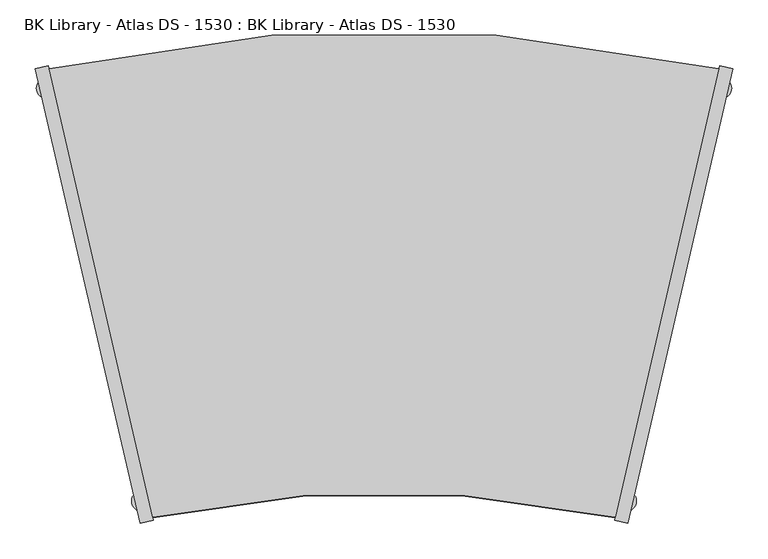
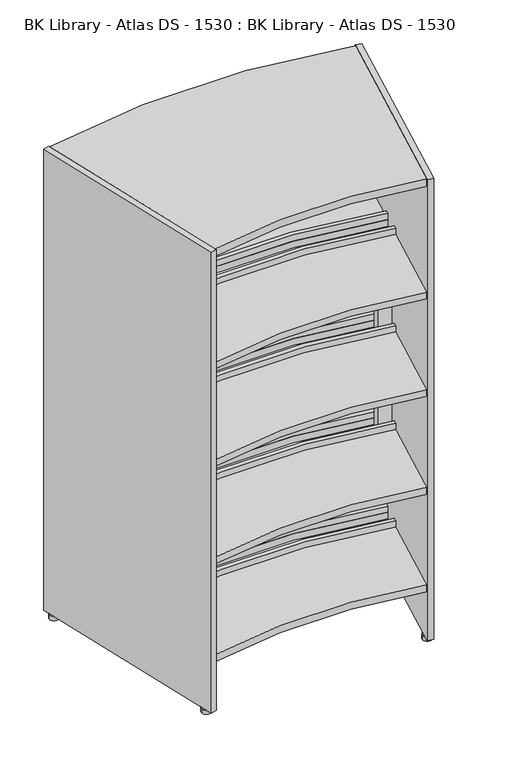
"""IFC4 building model written with IfcOpenShell, lengths in millimetres: furniture geometry, BK Library - Atlas DS - 1530 : BK Library - Atlas DS - 1530."""

from ifc_helpers import new_model, si_unit, point, frame, frame_2d, origin, origin_with_axes, place, context, project, spatial, polyline, circle_curve, trimmed, segment, composite_curve, outline, extrude, source, transform, mapped, element, save
from ifc_brep_helpers import plane_surface, cylinder_surface, revolved_surface, advanced_brep


def bk_library_atlas_ds_1530_bk_library_atlas_ds_1530_61157fd0(model_context):
    return source(origin(), model_context, "Body", "SolidModel", [
        extrude(outline(composite_curve([segment(trimmed(circle_curve(frame_2d((0.0, -1777.8812307)), 2148.52767), [point((-474.1962162, 317.663829))], [point((474.1962162, 317.663829))], False, "CARTESIAN"), True, "CONTINUOUS"), segment(polyline([(474.1962162, 317.663829), (327.6944521, -317.663829)]), True, "CONTINUOUS"), segment(trimmed(circle_curve(frame_2d((0.0, -1840.4430404)), 1557.6392973), [point((327.6944521, -317.663829))], [point((-327.6944521, -317.663829))], True, "CARTESIAN"), True, "CONTINUOUS"), segment(polyline([(-327.6944521, -317.663829), (-474.1962162, 317.663829)]), True, "CONTINUOUS")], self_intersect=False)), frame((0.0, 0.0, 1501.6999998), z_axis=(0.0, 0.0, 1.0), x_axis=(1.0, 0.0, 0.0)), (0.0, 0.0, 1.0), 24.0),
        advanced_brep(
        [(-403.1922937, 9.7442892, 1106.1999998), (-398.6983746, -9.7442892, 1106.1999998), (398.6983746, -9.7442892, 1106.1999998), (403.1922937, 9.7442892, 1106.1999998), (-403.1922937, 9.7442892, 391.1999998), (403.1922937, 9.7442892, 391.1999998), (398.6983746, -9.7442892, 391.1999998), (-398.6983746, -9.7442892, 391.1999998), (359.7000463, -1.6061954, 1066.1999998), (359.7000463, -1.6061954, 768.6999998), (-359.7212176, -1.6103769, 768.6999998), (-359.7212176, -1.6103769, 1066.1999998), (-359.7212176, -1.6103769, 728.6999998), (359.7000463, -1.6061954, 728.6999998), (359.7000463, -1.6061954, 431.1999998), (-359.7212176, -1.6103769, 431.1999998), (359.7000463, 18.8192746, 768.6999998), (359.7000463, 18.8192746, 1066.1999998), (-359.7212176, 18.8151191, 1066.1999998), (-359.7212176, 18.8151191, 768.6999998), (359.7000463, 18.8192746, 728.6999998), (-359.7212176, 18.8151191, 728.6999998), (-359.7212176, 18.8151191, 431.1999998), (359.7000463, 18.8192746, 431.1999998)],
        [
            (0, 1),
            (1, 2, circle_curve(frame((0.0, -1822.824997, 1106.1999998), z_axis=(0.0, 0.0, -1.0), x_axis=(1.0, 0.0, 0.0)), 1856.4002927)),
            (2, 3),
            (3, 0, circle_curve(frame((0.0, -1813.8149651, 1106.1999998), z_axis=(0.0, 0.0, 1.0), x_axis=(1.0, 0.0, 0.0)), 1867.6007014)),
            (4, 5, circle_curve(frame((0.0, -1813.8149651, 391.1999998), z_axis=(0.0, 0.0, -1.0), x_axis=(1.0, 0.0, 0.0)), 1867.6007014)),
            (5, 6),
            (6, 7, circle_curve(frame((0.0, -1822.824997, 391.1999998), z_axis=(0.0, 0.0, 1.0), x_axis=(1.0, 0.0, 0.0)), 1856.4002927)),
            (7, 4),
            (0, 4),
            (7, 1),
            (2, 6),
            (5, 3),
            (8, 9),
            (9, 10, circle_curve(frame((0.0, -1822.824997, 768.6999998), z_axis=(0.0, 0.0, 1.0), x_axis=(1.0, 0.0, 0.0)), 1856.4002927)),
            (10, 11),
            (11, 8, circle_curve(frame((0.0, -1822.824997, 1066.1999998), z_axis=(0.0, 0.0, -1.0), x_axis=(1.0, 0.0, 0.0)), 1856.4002927)),
            (12, 13, circle_curve(frame((0.0, -1822.824997, 728.6999998), z_axis=(0.0, 0.0, -1.0), x_axis=(1.0, 0.0, 0.0)), 1856.4002927)),
            (13, 14),
            (14, 15, circle_curve(frame((0.0, -1822.824997, 431.1999998), z_axis=(0.0, 0.0, 1.0), x_axis=(1.0, 0.0, 0.0)), 1856.4002927)),
            (15, 12),
            (16, 17),
            (17, 18, circle_curve(frame((0.0, -1813.8149651, 1066.1999998), z_axis=(0.0, 0.0, 1.0), x_axis=(1.0, 0.0, 0.0)), 1867.6007014)),
            (18, 19),
            (19, 16, circle_curve(frame((0.0, -1813.8149651, 768.6999998), z_axis=(0.0, 0.0, -1.0), x_axis=(1.0, 0.0, 0.0)), 1867.6007014)),
            (20, 21, circle_curve(frame((0.0, -1813.8149651, 728.6999998), z_axis=(0.0, 0.0, 1.0), x_axis=(1.0, 0.0, 0.0)), 1867.6007014)),
            (21, 22),
            (22, 23, circle_curve(frame((0.0, -1813.8149651, 431.1999998), z_axis=(0.0, 0.0, -1.0), x_axis=(1.0, 0.0, 0.0)), 1867.6007014)),
            (23, 20),
            (16, 9),
            (8, 17),
            (11, 18),
            (10, 19),
            (20, 13),
            (12, 21),
            (15, 22),
            (14, 23),
        ],
        [
            plane_surface(frame((-326.7956683, -321.5615447, 1106.1999998), z_axis=(0.0, 0.0, 1.0), x_axis=(0.224695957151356, -0.9744289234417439, 0.0))),
            plane_surface(frame((-326.7956683, -321.5615447, 391.1999998), z_axis=(0.0, 0.0, -1.0), x_axis=(-0.224695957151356, 0.9744289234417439, 0.0))),
            plane_surface(frame((-403.1922937, 9.7442892, 1106.1999998), z_axis=(-0.9744289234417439, -0.224695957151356, 0.0), x_axis=(0.0, 0.0, -1.0))),
            plane_surface(frame((398.6983746, -9.7442892, 1106.1999998), z_axis=(0.974428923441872, -0.22469595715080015, 0.0), x_axis=(0.0, 0.0, -1.0))),
            revolved_surface(polyline([(1856.4002927, -1822.824997, 391.1999998), (1856.4002927, -1822.824997, 1106.1999998)]), (0.0, -1822.824997, 391.1999998), (0.0, 0.0, -1.0)),
            cylinder_surface(frame((0.0, -1813.8149651, 391.1999998), z_axis=(0.0, 0.0, 1.0), x_axis=(1.0, 0.0, 0.0)), 1867.6007014),
            plane_surface(frame((359.7000463, -114.4923923, 768.6999998), z_axis=(-1.0, 0.0, 0.0), x_axis=(0.0, 1.0, 0.0))),
            plane_surface(frame((359.7000463, -114.4923923, 1066.1999998), z_axis=(0.0, 0.0, -1.0), x_axis=(0.0, 1.0, 0.0))),
            plane_surface(frame((-359.7212176, -114.4923923, 1066.1999998), z_axis=(1.0, 0.0, 0.0), x_axis=(0.0, 1.0, 0.0))),
            plane_surface(frame((-359.7212176, -114.4923923, 768.6999998), z_axis=(0.0, 0.0, 1.0), x_axis=(0.0, 1.0, 0.0))),
            plane_surface(frame((359.7000463, -114.4923923, 728.6999998), z_axis=(0.0, 0.0, -1.0), x_axis=(0.0, 1.0, 0.0))),
            plane_surface(frame((-359.7212176, -114.4923923, 728.6999998), z_axis=(1.0, 0.0, 0.0), x_axis=(0.0, 1.0, 0.0))),
            plane_surface(frame((-359.7212176, -114.4923923, 431.1999998), z_axis=(0.0, 0.0, 1.0), x_axis=(0.0, 1.0, 0.0))),
            plane_surface(frame((359.7000463, -114.4923923, 431.1999998), z_axis=(-1.0, 0.0, 0.0), x_axis=(0.0, 1.0, 0.0))),
        ],
        [
            (0, [[1, 2, 3, 4]]),
            (1, [[5, 6, 7, 8]]),
            (2, [[-1, 9, -8, 10]]),
            (3, [[-3, 11, -6, 12]]),
            (4, [[-2, -10, -7, -11], [13, 14, 15, 16], [17, 18, 19, 20]]),
            (5, [[-4, -12, -5, -9], [21, 22, 23, 24], [25, 26, 27, 28]]),
            (6, [[29, -13, 30, -21]]),
            (7, [[-30, -16, 31, -22]]),
            (8, [[-31, -15, 32, -23]]),
            (9, [[-29, -24, -32, -14]]),
            (10, [[33, -17, 34, -25]]),
            (11, [[-34, -20, 35, -26]]),
            (12, [[-35, -19, 36, -27]]),
            (13, [[-33, -28, -36, -18]]),
        ],
    ),
        extrude(outline(composite_curve([segment(trimmed(circle_curve(frame_2d((0.0, -1840.4430404)), 1557.6392973), [point((327.6944521, -317.663829))], [point((-327.6944521, -317.663829))], True, "CARTESIAN"), True, "CONTINUOUS"), segment(polyline([(-327.6944521, -317.663829), (-394.2058088, -29.2269986)]), True, "CONTINUOUS"), segment(trimmed(circle_curve(frame_2d((0.0, -1785.1487517)), 1799.627579), [point((-394.2058088, -29.2269986))], [point((394.2058088, -29.2269986))], False, "CARTESIAN"), True, "CONTINUOUS"), segment(polyline([(394.2058088, -29.2269986), (327.6944521, -317.663829)]), True, "CONTINUOUS")], self_intersect=False)), frame((0.0, 0.0, 171.6999998), z_axis=(0.0, 0.0, 1.0), x_axis=(1.0, 0.0, 0.0)), (0.0, 0.0, 1.0), 22.0),
        extrude(outline(composite_curve([segment(trimmed(circle_curve(frame_2d((0.0, -1777.8812307)), 2148.52767), [point((-474.1962162, 317.663829))], [point((474.1962162, 317.663829))], False, "CARTESIAN"), True, "CONTINUOUS"), segment(polyline([(474.1962162, 317.663829), (407.6853202, 29.2289965)]), True, "CONTINUOUS"), segment(trimmed(circle_curve(frame_2d((0.0, -1798.2835703)), 1872.4341116), [point((407.6853202, 29.2289965))], [point((-407.6853202, 29.2289965))], True, "CARTESIAN"), True, "CONTINUOUS"), segment(polyline([(-407.6853202, 29.2289965), (-474.1962162, 317.663829)]), True, "CONTINUOUS")], self_intersect=False)), frame((0.0, 0.0, 171.6999998), z_axis=(0.0, 0.0, 1.0), x_axis=(1.0, 0.0, 0.0)), (0.0, 0.0, 1.0), 22.0),
        extrude(outline(composite_curve([segment(trimmed(circle_curve(frame_2d((0.0, -1840.4430404)), 1557.6392973), [point((327.6944521, -317.663829))], [point((-327.6944521, -317.663829))], True, "CARTESIAN"), True, "CONTINUOUS"), segment(polyline([(-327.6944521, -317.663829), (-394.2058088, -29.2269986)]), True, "CONTINUOUS"), segment(trimmed(circle_curve(frame_2d((0.0, -1785.1487517)), 1799.627579), [point((-394.2058088, -29.2269986))], [point((394.2058088, -29.2269986))], False, "CARTESIAN"), True, "CONTINUOUS"), segment(polyline([(394.2058088, -29.2269986), (327.6944521, -317.663829)]), True, "CONTINUOUS")], self_intersect=False)), frame((0.0, 0.0, 491.6999998), z_axis=(0.0, 0.0, 1.0), x_axis=(1.0, 0.0, 0.0)), (0.0, 0.0, 1.0), 22.0),
        extrude(outline(composite_curve([segment(trimmed(circle_curve(frame_2d((0.0, -1777.8812307)), 2148.52767), [point((-474.1962162, 317.663829))], [point((474.1962162, 317.663829))], False, "CARTESIAN"), True, "CONTINUOUS"), segment(polyline([(474.1962162, 317.663829), (407.6853202, 29.2289965)]), True, "CONTINUOUS"), segment(trimmed(circle_curve(frame_2d((0.0, -1798.2835703)), 1872.4341116), [point((407.6853202, 29.2289965))], [point((-407.6853202, 29.2289965))], True, "CARTESIAN"), True, "CONTINUOUS"), segment(polyline([(-407.6853202, 29.2289965), (-474.1962162, 317.663829)]), True, "CONTINUOUS")], self_intersect=False)), frame((0.0, 0.0, 491.6999998), z_axis=(0.0, 0.0, 1.0), x_axis=(1.0, 0.0, 0.0)), (0.0, 0.0, 1.0), 22.0),
        extrude(outline(composite_curve([segment(trimmed(circle_curve(frame_2d((0.0, -1840.4430404)), 1557.6392973), [point((327.6944521, -317.663829))], [point((-327.6944521, -317.663829))], True, "CARTESIAN"), True, "CONTINUOUS"), segment(polyline([(-327.6944521, -317.663829), (-394.2058088, -29.2269986)]), True, "CONTINUOUS"), segment(trimmed(circle_curve(frame_2d((0.0, -1785.1487517)), 1799.627579), [point((-394.2058088, -29.2269986))], [point((394.2058088, -29.2269986))], False, "CARTESIAN"), True, "CONTINUOUS"), segment(polyline([(394.2058088, -29.2269986), (327.6944521, -317.663829)]), True, "CONTINUOUS")], self_intersect=False)), frame((0.0, 0.0, 811.6999998), z_axis=(0.0, 0.0, 1.0), x_axis=(1.0, 0.0, 0.0)), (0.0, 0.0, 1.0), 22.0),
        extrude(outline(composite_curve([segment(trimmed(circle_curve(frame_2d((0.0, -1777.8812307)), 2148.52767), [point((-474.1962162, 317.663829))], [point((474.1962162, 317.663829))], False, "CARTESIAN"), True, "CONTINUOUS"), segment(polyline([(474.1962162, 317.663829), (407.6853202, 29.2289965)]), True, "CONTINUOUS"), segment(trimmed(circle_curve(frame_2d((0.0, -1798.2835703)), 1872.4341116), [point((407.6853202, 29.2289965))], [point((-407.6853202, 29.2289965))], True, "CARTESIAN"), True, "CONTINUOUS"), segment(polyline([(-407.6853202, 29.2289965), (-474.1962162, 317.663829)]), True, "CONTINUOUS")], self_intersect=False)), frame((0.0, 0.0, 811.6999998), z_axis=(0.0, 0.0, 1.0), x_axis=(1.0, 0.0, 0.0)), (0.0, 0.0, 1.0), 22.0),
        extrude(outline(composite_curve([segment(trimmed(circle_curve(frame_2d((0.0, -1840.4430404)), 1557.6392973), [point((327.6944521, -317.663829))], [point((-327.6944521, -317.663829))], True, "CARTESIAN"), True, "CONTINUOUS"), segment(polyline([(-327.6944521, -317.663829), (-394.2058088, -29.2269986)]), True, "CONTINUOUS"), segment(trimmed(circle_curve(frame_2d((0.0, -1785.1487517)), 1799.627579), [point((-394.2058088, -29.2269986))], [point((394.2058088, -29.2269986))], False, "CARTESIAN"), True, "CONTINUOUS"), segment(polyline([(394.2058088, -29.2269986), (327.6944521, -317.663829)]), True, "CONTINUOUS")], self_intersect=False)), frame((0.0, 0.0, 1131.6999998), z_axis=(0.0, 0.0, 1.0), x_axis=(1.0, 0.0, 0.0)), (0.0, 0.0, 1.0), 22.0),
        extrude(outline(composite_curve([segment(trimmed(circle_curve(frame_2d((0.0, -1777.8812307)), 2148.52767), [point((-474.1962162, 317.663829))], [point((474.1962162, 317.663829))], False, "CARTESIAN"), True, "CONTINUOUS"), segment(polyline([(474.1962162, 317.663829), (407.6853202, 29.2289965)]), True, "CONTINUOUS"), segment(trimmed(circle_curve(frame_2d((0.0, -1798.2835703)), 1872.4341116), [point((407.6853202, 29.2289965))], [point((-407.6853202, 29.2289965))], True, "CARTESIAN"), True, "CONTINUOUS"), segment(polyline([(-407.6853202, 29.2289965), (-474.1962162, 317.663829)]), True, "CONTINUOUS")], self_intersect=False)), frame((0.0, 0.0, 1131.6999998), z_axis=(0.0, 0.0, 1.0), x_axis=(1.0, 0.0, 0.0)), (0.0, 0.0, 1.0), 22.0),
        extrude(outline(composite_curve([segment(trimmed(circle_curve(frame_2d((0.0, -1785.1487517)), 1799.627579), [point((-394.2058088, -29.2269986))], [point((394.2058088, -29.2269986))], False, "CARTESIAN"), True, "CONTINUOUS"), segment(polyline([(394.2058088, -29.2269986), (391.2848087, -41.8943694)]), True, "CONTINUOUS"), segment(trimmed(circle_curve(frame_2d((0.0, -1790.5831955)), 1791.9309172), [point((391.2848087, -41.8943694))], [point((-391.2848087, -41.8943694))], True, "CARTESIAN"), True, "CONTINUOUS"), segment(polyline([(-391.2848087, -41.8943694), (-394.2058088, -29.2269986)]), True, "CONTINUOUS")], self_intersect=False)), frame((0.0, 0.0, 193.6999998), z_axis=(0.0, 0.0, 1.0), x_axis=(1.0, 0.0, 0.0)), (0.0, 0.0, 1.0), 20.0),
        extrude(outline(composite_curve([segment(trimmed(circle_curve(frame_2d((0.0, -1776.6858327)), 1864.3585062), [point((-410.605951, 41.8947656))], [point((410.605951, 41.8947656))], False, "CARTESIAN"), True, "CONTINUOUS"), segment(polyline([(410.605951, 41.8947656), (407.6853202, 29.2289965)]), True, "CONTINUOUS"), segment(trimmed(circle_curve(frame_2d((0.0, -1798.2835703)), 1872.4341116), [point((407.6853202, 29.2289965))], [point((-407.6853202, 29.2289965))], True, "CARTESIAN"), True, "CONTINUOUS"), segment(polyline([(-407.6853202, 29.2289965), (-410.605951, 41.8947656)]), True, "CONTINUOUS")], self_intersect=False)), frame((0.0, 0.0, 193.6999998), z_axis=(0.0, 0.0, 1.0), x_axis=(1.0, 0.0, 0.0)), (0.0, 0.0, 1.0), 20.0),
        extrude(outline(composite_curve([segment(trimmed(circle_curve(frame_2d((0.0, -1785.1487517)), 1799.627579), [point((-394.2058088, -29.2269986))], [point((394.2058088, -29.2269986))], False, "CARTESIAN"), True, "CONTINUOUS"), segment(polyline([(394.2058088, -29.2269986), (391.2848087, -41.8943694)]), True, "CONTINUOUS"), segment(trimmed(circle_curve(frame_2d((0.0, -1790.5831955)), 1791.9309172), [point((391.2848087, -41.8943694))], [point((-391.2848087, -41.8943694))], True, "CARTESIAN"), True, "CONTINUOUS"), segment(polyline([(-391.2848087, -41.8943694), (-394.2058088, -29.2269986)]), True, "CONTINUOUS")], self_intersect=False)), frame((0.0, 0.0, 513.6999998), z_axis=(0.0, 0.0, 1.0), x_axis=(1.0, 0.0, 0.0)), (0.0, 0.0, 1.0), 20.0),
        extrude(outline(composite_curve([segment(trimmed(circle_curve(frame_2d((0.0, -1776.6858327)), 1864.3585062), [point((-410.605951, 41.8947656))], [point((410.605951, 41.8947656))], False, "CARTESIAN"), True, "CONTINUOUS"), segment(polyline([(410.605951, 41.8947656), (407.6853202, 29.2289965)]), True, "CONTINUOUS"), segment(trimmed(circle_curve(frame_2d((0.0, -1798.2835703)), 1872.4341116), [point((407.6853202, 29.2289965))], [point((-407.6853202, 29.2289965))], True, "CARTESIAN"), True, "CONTINUOUS"), segment(polyline([(-407.6853202, 29.2289965), (-410.605951, 41.8947656)]), True, "CONTINUOUS")], self_intersect=False)), frame((0.0, 0.0, 513.6999998), z_axis=(0.0, 0.0, 1.0), x_axis=(1.0, 0.0, 0.0)), (0.0, 0.0, 1.0), 20.0),
        extrude(outline(composite_curve([segment(trimmed(circle_curve(frame_2d((0.0, -1785.1487517)), 1799.627579), [point((-394.2058088, -29.2269986))], [point((394.2058088, -29.2269986))], False, "CARTESIAN"), True, "CONTINUOUS"), segment(polyline([(394.2058088, -29.2269986), (391.2848087, -41.8943694)]), True, "CONTINUOUS"), segment(trimmed(circle_curve(frame_2d((0.0, -1790.5831955)), 1791.9309172), [point((391.2848087, -41.8943694))], [point((-391.2848087, -41.8943694))], True, "CARTESIAN"), True, "CONTINUOUS"), segment(polyline([(-391.2848087, -41.8943694), (-394.2058088, -29.2269986)]), True, "CONTINUOUS")], self_intersect=False)), frame((0.0, 0.0, 833.6999998), z_axis=(0.0, 0.0, 1.0), x_axis=(1.0, 0.0, 0.0)), (0.0, 0.0, 1.0), 20.0),
        extrude(outline(composite_curve([segment(trimmed(circle_curve(frame_2d((0.0, -1776.6858327)), 1864.3585062), [point((-410.605951, 41.8947656))], [point((410.605951, 41.8947656))], False, "CARTESIAN"), True, "CONTINUOUS"), segment(polyline([(410.605951, 41.8947656), (407.6853202, 29.2289965)]), True, "CONTINUOUS"), segment(trimmed(circle_curve(frame_2d((0.0, -1798.2835703)), 1872.4341116), [point((407.6853202, 29.2289965))], [point((-407.6853202, 29.2289965))], True, "CARTESIAN"), True, "CONTINUOUS"), segment(polyline([(-407.6853202, 29.2289965), (-410.605951, 41.8947656)]), True, "CONTINUOUS")], self_intersect=False)), frame((0.0, 0.0, 833.6999998), z_axis=(0.0, 0.0, 1.0), x_axis=(1.0, 0.0, 0.0)), (0.0, 0.0, 1.0), 20.0),
        extrude(outline(composite_curve([segment(trimmed(circle_curve(frame_2d((0.0, -1785.1487517)), 1799.627579), [point((-394.2058088, -29.2269986))], [point((394.2058088, -29.2269986))], False, "CARTESIAN"), True, "CONTINUOUS"), segment(polyline([(394.2058088, -29.2269986), (391.2848087, -41.8943694)]), True, "CONTINUOUS"), segment(trimmed(circle_curve(frame_2d((0.0, -1790.5831955)), 1791.9309172), [point((391.2848087, -41.8943694))], [point((-391.2848087, -41.8943694))], True, "CARTESIAN"), True, "CONTINUOUS"), segment(polyline([(-391.2848087, -41.8943694), (-394.2058088, -29.2269986)]), True, "CONTINUOUS")], self_intersect=False)), frame((0.0, 0.0, 1153.6999998), z_axis=(0.0, 0.0, 1.0), x_axis=(1.0, 0.0, 0.0)), (0.0, 0.0, 1.0), 20.0),
        extrude(outline(composite_curve([segment(trimmed(circle_curve(frame_2d((0.0, -1776.6858327)), 1864.3585062), [point((-410.605951, 41.8947656))], [point((410.605951, 41.8947656))], False, "CARTESIAN"), True, "CONTINUOUS"), segment(polyline([(410.605951, 41.8947656), (407.6853202, 29.2289965)]), True, "CONTINUOUS"), segment(trimmed(circle_curve(frame_2d((0.0, -1798.2835703)), 1872.4341116), [point((407.6853202, 29.2289965))], [point((-407.6853202, 29.2289965))], True, "CARTESIAN"), True, "CONTINUOUS"), segment(polyline([(-407.6853202, 29.2289965), (-410.605951, 41.8947656)]), True, "CONTINUOUS")], self_intersect=False)), frame((0.0, 0.0, 1153.6999998), z_axis=(0.0, 0.0, 1.0), x_axis=(1.0, 0.0, 0.0)), (0.0, 0.0, 1.0), 20.0),
        extrude(outline(polyline([(-345.3098178, -325.8307679), (-493.6091495, 317.2923215), (-475.095, 321.5615447), (-326.7956683, -321.5615447), (-345.3098178, -325.8307679)])), frame((0.0, 0.0, 13.6999998), z_axis=(0.0, 0.0, 1.0), x_axis=(1.0, 0.0, 0.0)), (0.0, 0.0, 1.0), 1512.0),
        extrude(outline(polyline([(475.095, 321.5615447), (493.6091495, 317.2923215), (345.3098178, -325.8307679), (326.7956683, -321.5615447), (475.095, 321.5615447)])), frame((0.0, 0.0, 13.6999998), z_axis=(0.0, 0.0, 1.0), x_axis=(1.0, 0.0, 0.0)), (0.0, 0.0, 1.0), 1512.0),
        extrude(outline(composite_curve([segment(trimmed(circle_curve(frame_2d((477.608406, 290.1883722)), 14.4994573), [point((492.1078633, 290.1883722))], [point((463.1089486, 290.1883722))], False, "CARTESIAN"), True, "CONTINUOUS"), segment(trimmed(circle_curve(frame_2d((477.608406, 290.1883722)), 14.4994573), [point((463.1089486, 290.1883722))], [point((492.1078633, 290.1883722))], False, "CARTESIAN"), True, "CONTINUOUS")], self_intersect=False)), origin_with_axes(), (0.0, 0.0, 1.0), 13.6999998),
        extrude(outline(composite_curve([segment(trimmed(circle_curve(frame_2d((-477.608406, 290.1883722)), 14.4994573), [point((-492.1078633, 290.1883722))], [point((-463.1089486, 290.1883722))], False, "CARTESIAN"), True, "CONTINUOUS"), segment(trimmed(circle_curve(frame_2d((-477.608406, 290.1883722)), 14.4994573), [point((-463.1089486, 290.1883722))], [point((-492.1078633, 290.1883722))], False, "CARTESIAN"), True, "CONTINUOUS")], self_intersect=False)), origin_with_axes(), (0.0, 0.0, 1.0), 13.6999998),
        extrude(outline(composite_curve([segment(trimmed(circle_curve(frame_2d((342.7923392, -294.4590973)), 14.4994573), [point((357.2917965, -294.4590973))], [point((328.2928818, -294.4590973))], False, "CARTESIAN"), True, "CONTINUOUS"), segment(trimmed(circle_curve(frame_2d((342.7923392, -294.4590973)), 14.4994573), [point((328.2928818, -294.4590973))], [point((357.2917965, -294.4590973))], False, "CARTESIAN"), True, "CONTINUOUS")], self_intersect=False)), origin_with_axes(), (0.0, 0.0, 1.0), 13.6999998),
        extrude(outline(composite_curve([segment(trimmed(circle_curve(frame_2d((-342.7923392, -294.4590973)), 14.4994573), [point((-357.2917965, -294.4590973))], [point((-328.2928818, -294.4590973))], False, "CARTESIAN"), True, "CONTINUOUS"), segment(trimmed(circle_curve(frame_2d((-342.7923392, -294.4590973)), 14.4994573), [point((-328.2928818, -294.4590973))], [point((-357.2917965, -294.4590973))], False, "CARTESIAN"), True, "CONTINUOUS")], self_intersect=False)), origin_with_axes(), (0.0, 0.0, 1.0), 13.6999998),
    ])


if __name__ == "__main__":
    model = new_model("IFC4")
    model_context = context("Model", 3, world=origin())
    ifc_project = project(units=[si_unit("LENGTHUNIT", "METRE", prefix="MILLI")], contexts=[model_context])
    site = spatial("IfcSite", under=ifc_project)
    building = spatial("IfcBuilding", under=site)
    placement = place(None, origin())
    bk_library_atlas_ds_1530_bk_library_atlas_ds_1530_shape = bk_library_atlas_ds_1530_bk_library_atlas_ds_1530_61157fd0(model_context)
    element("IfcFurniture", 1, ObjectType="BK Library - Atlas DS - 1530 : BK Library - Atlas DS - 1530", at=placement, inside=building, context=model_context, shape_type="MappedRepresentation", body=[
        mapped(bk_library_atlas_ds_1530_bk_library_atlas_ds_1530_shape, transform((0.0, 0.0, 0.0), x_axis=(1.0, 0.0, 0.0), y_axis=(0.0, 1.0, 0.0), z_axis=(0.0, 0.0, 1.0))),
    ])
    save(model, "model.ifc")
